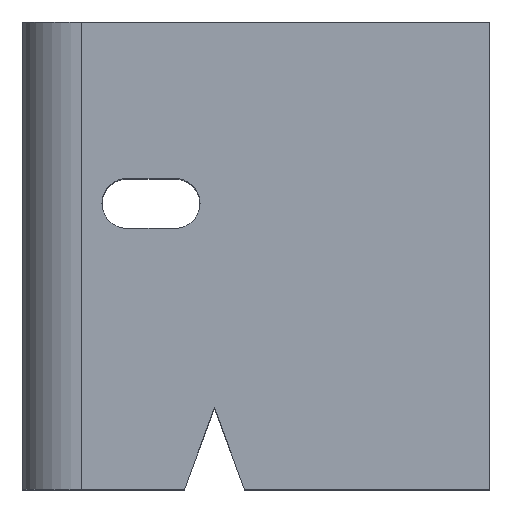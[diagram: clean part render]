
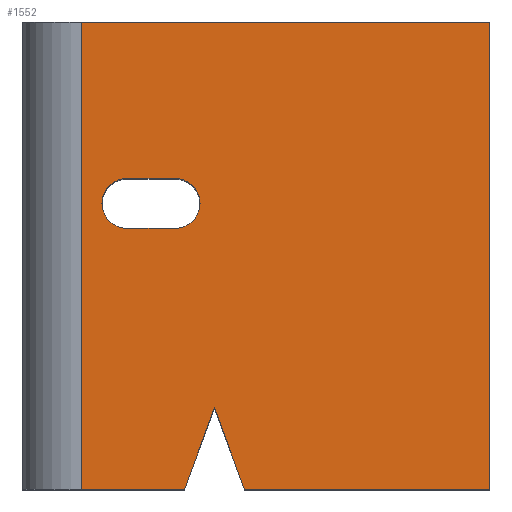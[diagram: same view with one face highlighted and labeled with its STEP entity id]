
A CAD part, top view. The second image highlights one B-rep face of the part: STEP entity #1552.
In plain terms, the highlighted planar face has unit normal (0, 0, 1).
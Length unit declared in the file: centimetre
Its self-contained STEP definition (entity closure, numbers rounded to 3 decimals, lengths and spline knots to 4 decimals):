
#5 = DIRECTION ( 'NONE',  ( 1., 0., 0. ) ) ;
#15 = VECTOR ( 'NONE', #978, 100. ) ;
#17 = LINE ( 'NONE', #1205, #1767 ) ;
#35 = CARTESIAN_POINT ( 'NONE',  ( 475.1298, 0., 1000. ) ) ;
#41 = ORIENTED_EDGE ( 'NONE', *, *, #832, .F. ) ;
#59 = EDGE_CURVE ( 'NONE', #411, #437, #673, .T. ) ;
#66 = VERTEX_POINT ( 'NONE', #542 ) ;
#100 = CARTESIAN_POINT ( 'NONE',  ( 326.9377, 611.7838, 1000. ) ) ;
#113 = EDGE_CURVE ( 'NONE', #437, #1598, #487, .T. ) ;
#170 = CIRCLE ( 'NONE', #666, 53.3634 ) ;
#174 = VECTOR ( 'NONE', #1183, 100. ) ;
#185 = ORIENTED_EDGE ( 'NONE', *, *, #988, .F. ) ;
#194 = VERTEX_POINT ( 'NONE', #1072 ) ;
#198 = VERTEX_POINT ( 'NONE', #769 ) ;
#206 = CARTESIAN_POINT ( 'NONE',  ( 347.0947, 0., 1000. ) ) ;
#214 = DIRECTION ( 'NONE',  ( 0.345, 0.939, 0. ) ) ;
#215 = VERTEX_POINT ( 'NONE', #35 ) ;
#273 = EDGE_LOOP ( 'NONE', ( #185, #41, #1772, #1449, #1780 ) ) ;
#329 = AXIS2_PLACEMENT_3D ( 'NONE', #645, #1846, #602 ) ;
#330 = ORIENTED_EDGE ( 'NONE', *, *, #59, .T. ) ;
#351 = CARTESIAN_POINT ( 'NONE',  ( 1000., 1000., 1000. ) ) ;
#366 = EDGE_CURVE ( 'NONE', #1258, #1344, #170, .T. ) ;
#373 = EDGE_CURVE ( 'NONE', #215, #411, #17, .T. ) ;
#379 = ORIENTED_EDGE ( 'NONE', *, *, #113, .T. ) ;
#411 = VERTEX_POINT ( 'NONE', #460 ) ;
#419 = VERTEX_POINT ( 'NONE', #1036 ) ;
#437 = VERTEX_POINT ( 'NONE', #351 ) ;
#460 = CARTESIAN_POINT ( 'NONE',  ( 1000., 0., 1000. ) ) ;
#484 = CARTESIAN_POINT ( 'NONE',  ( 223.6187, 558.4203, 1000. ) ) ;
#487 = LINE ( 'NONE', #1355, #174 ) ;
#537 = EDGE_CURVE ( 'NONE', #1708, #66, #1589, .T. ) ;
#540 = DIRECTION ( 'NONE',  ( 1., 0., 0. ) ) ;
#542 = CARTESIAN_POINT ( 'NONE',  ( 347.0947, 0., 1000. ) ) ;
#602 = DIRECTION ( 'NONE',  ( 1., 0., 0. ) ) ;
#607 = VECTOR ( 'NONE', #1307, 100. ) ;
#614 = CARTESIAN_POINT ( 'NONE',  ( 326.9377, 665.1472, 1000. ) ) ;
#645 = CARTESIAN_POINT ( 'NONE',  ( 326.9377, 611.7838, 1000. ) ) ;
#654 = VECTOR ( 'NONE', #214, 100. ) ;
#666 = AXIS2_PLACEMENT_3D ( 'NONE', #100, #1295, #540 ) ;
#673 = LINE ( 'NONE', #1018, #1678 ) ;
#674 = CARTESIAN_POINT ( 'NONE',  ( 223.6187, 611.7838, 1000. ) ) ;
#684 = EDGE_CURVE ( 'NONE', #1598, #1708, #1795, .T. ) ;
#692 = DIRECTION ( 'NONE',  ( 0., 1., 0. ) ) ;
#720 = CARTESIAN_POINT ( 'NONE',  ( 380.3011, 611.7838, 1000. ) ) ;
#723 = AXIS2_PLACEMENT_3D ( 'NONE', #674, #1282, #1889 ) ;
#769 = CARTESIAN_POINT ( 'NONE',  ( 223.6187, 558.4203, 1000. ) ) ;
#785 = LINE ( 'NONE', #1390, #1681 ) ;
#807 = AXIS2_PLACEMENT_3D ( 'NONE', #1045, #1228, #1215 ) ;
#832 = EDGE_CURVE ( 'NONE', #1344, #419, #1301, .T. ) ;
#845 = ORIENTED_EDGE ( 'NONE', *, *, #373, .T. ) ;
#953 = CARTESIAN_POINT ( 'NONE',  ( 126.3174, 1000., 1000. ) ) ;
#975 = ORIENTED_EDGE ( 'NONE', *, *, #684, .T. ) ;
#978 = DIRECTION ( 'NONE',  ( 1., 0., 0. ) ) ;
#988 = EDGE_CURVE ( 'NONE', #419, #198, #1887, .T. ) ;
#990 = CIRCLE ( 'NONE', #329, 53.3634 ) ;
#994 = DIRECTION ( 'NONE',  ( -1., 0., 0. ) ) ;
#1018 = CARTESIAN_POINT ( 'NONE',  ( 1000., 1000., 1000. ) ) ;
#1032 = FACE_OUTER_BOUND ( 'NONE', #1805, .T. ) ;
#1036 = CARTESIAN_POINT ( 'NONE',  ( 223.6187, 665.1472, 1000. ) ) ;
#1045 = CARTESIAN_POINT ( 'NONE',  ( 0., 0., 1000. ) ) ;
#1072 = CARTESIAN_POINT ( 'NONE',  ( 326.9377, 558.4203, 1000. ) ) ;
#1133 = CARTESIAN_POINT ( 'NONE',  ( 326.9377, 665.1472, 1000. ) ) ;
#1139 = EDGE_CURVE ( 'NONE', #1604, #215, #785, .T. ) ;
#1183 = DIRECTION ( 'NONE',  ( -1., 0., 0. ) ) ;
#1205 = CARTESIAN_POINT ( 'NONE',  ( 0., 0., 1000. ) ) ;
#1215 = DIRECTION ( 'NONE',  ( 1., 0., 0. ) ) ;
#1228 = DIRECTION ( 'NONE',  ( 0., 0., 1. ) ) ;
#1258 = VERTEX_POINT ( 'NONE', #720 ) ;
#1282 = DIRECTION ( 'NONE',  ( 0., 0., 1. ) ) ;
#1295 = DIRECTION ( 'NONE',  ( 0., 0., 1. ) ) ;
#1301 = LINE ( 'NONE', #1133, #1453 ) ;
#1307 = DIRECTION ( 'NONE',  ( 0., -1., 0. ) ) ;
#1344 = VERTEX_POINT ( 'NONE', #614 ) ;
#1355 = CARTESIAN_POINT ( 'NONE',  ( 0., 1000., 1000. ) ) ;
#1388 = LINE ( 'NONE', #206, #654 ) ;
#1390 = CARTESIAN_POINT ( 'NONE',  ( 411.1122, 174.2795, 1000. ) ) ;
#1449 = ORIENTED_EDGE ( 'NONE', *, *, #1578, .F. ) ;
#1453 = VECTOR ( 'NONE', #994, 100. ) ;
#1458 = DIRECTION ( 'NONE',  ( 0.345, -0.939, 0. ) ) ;
#1498 = VECTOR ( 'NONE', #1833, 100. ) ;
#1509 = LINE ( 'NONE', #484, #1498 ) ;
#1511 = ORIENTED_EDGE ( 'NONE', *, *, #1815, .T. ) ;
#1552 = ADVANCED_FACE ( 'NONE', ( #1756, #1032 ), #1640, .T. ) ;
#1554 = CARTESIAN_POINT ( 'NONE',  ( 411.1122, 174.2795, 1000. ) ) ;
#1574 = CARTESIAN_POINT ( 'NONE',  ( 0., 0., 1000. ) ) ;
#1578 = EDGE_CURVE ( 'NONE', #194, #1258, #990, .T. ) ;
#1589 = LINE ( 'NONE', #1574, #15 ) ;
#1596 = ORIENTED_EDGE ( 'NONE', *, *, #537, .T. ) ;
#1598 = VERTEX_POINT ( 'NONE', #953 ) ;
#1604 = VERTEX_POINT ( 'NONE', #1554 ) ;
#1640 = PLANE ( 'NONE',  #807 ) ;
#1650 = CARTESIAN_POINT ( 'NONE',  ( 126.3174, 0., 1000. ) ) ;
#1678 = VECTOR ( 'NONE', #692, 100. ) ;
#1681 = VECTOR ( 'NONE', #1458, 100. ) ;
#1708 = VERTEX_POINT ( 'NONE', #1781 ) ;
#1756 = FACE_BOUND ( 'NONE', #273, .T. ) ;
#1767 = VECTOR ( 'NONE', #5, 100. ) ;
#1772 = ORIENTED_EDGE ( 'NONE', *, *, #366, .F. ) ;
#1780 = ORIENTED_EDGE ( 'NONE', *, *, #1801, .F. ) ;
#1781 = CARTESIAN_POINT ( 'NONE',  ( 126.3174, 0., 1000. ) ) ;
#1795 = LINE ( 'NONE', #1650, #607 ) ;
#1801 = EDGE_CURVE ( 'NONE', #198, #194, #1509, .T. ) ;
#1805 = EDGE_LOOP ( 'NONE', ( #1845, #845, #330, #379, #975, #1596, #1511 ) ) ;
#1815 = EDGE_CURVE ( 'NONE', #66, #1604, #1388, .T. ) ;
#1833 = DIRECTION ( 'NONE',  ( 1., 0., 0. ) ) ;
#1845 = ORIENTED_EDGE ( 'NONE', *, *, #1139, .T. ) ;
#1846 = DIRECTION ( 'NONE',  ( 0., 0., 1. ) ) ;
#1887 = CIRCLE ( 'NONE', #723, 53.3634 ) ;
#1889 = DIRECTION ( 'NONE',  ( 1., 0., 0. ) ) ;
